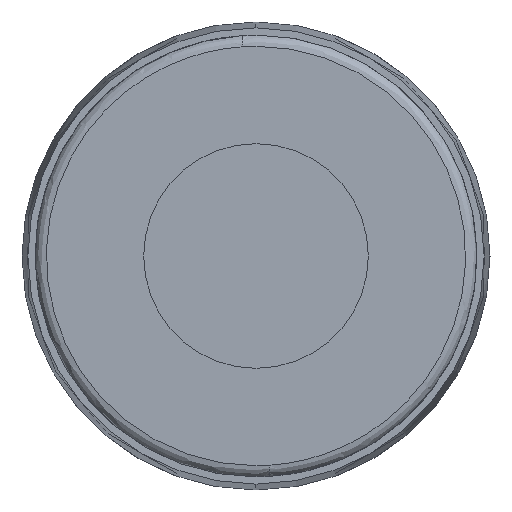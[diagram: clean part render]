
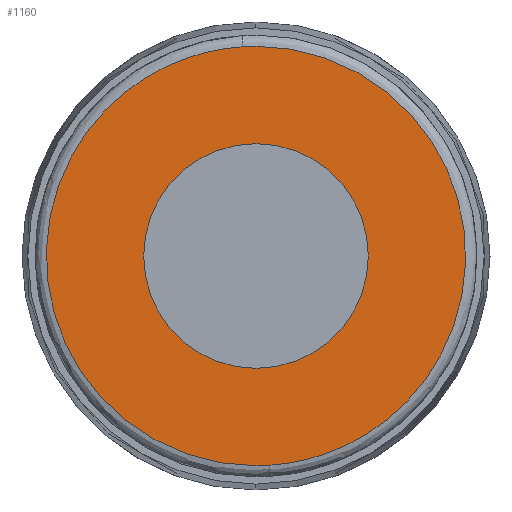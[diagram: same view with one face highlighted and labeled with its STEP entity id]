
A CAD part, left-side view. The second image highlights one B-rep face of the part: STEP entity #1160.
In plain terms, the highlighted planar face has unit normal (-1, 0, 0).
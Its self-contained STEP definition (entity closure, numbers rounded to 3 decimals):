
#62 = CARTESIAN_POINT ( 'NONE',  ( -17.45, 6.129, 6.1 ) ) ;
#183 = CARTESIAN_POINT ( 'NONE',  ( -17.45, -10.869, -4.938 ) ) ;
#189 = CARTESIAN_POINT ( 'NONE',  ( -17.45, 0., 5.6 ) ) ;
#291 =( BOUNDED_CURVE ( )  B_SPLINE_CURVE ( 3, ( #990, #1176, #327, #2205 ),
 .UNSPECIFIED., .F., .T. ) 
 B_SPLINE_CURVE_WITH_KNOTS ( ( 4, 4 ),
 ( 0.98, 1. ),
 .UNSPECIFIED. ) 
 CURVE ( )  GEOMETRIC_REPRESENTATION_ITEM ( )  RATIONAL_B_SPLINE_CURVE ( ( 1., 1., 1., 1. ) ) 
 REPRESENTATION_ITEM ( '' )  );
#307 = CARTESIAN_POINT ( 'NONE',  ( -17.45, -10.543, 5.6 ) ) ;
#327 = CARTESIAN_POINT ( 'NONE',  ( -17.45, -0.115, -5.6 ) ) ;
#405 = CARTESIAN_POINT ( 'NONE',  ( -17.45, 0.115, 5.6 ) ) ;
#409 = DIRECTION ( 'NONE',  ( -1., 0., 0. ) ) ;
#466 = ORIENTED_EDGE ( 'NONE', *, *, #527, .T. ) ;
#513 = AXIS2_PLACEMENT_3D ( 'NONE', #62, #409, #1949 ) ;
#527 = EDGE_CURVE ( 'NONE', #1685, #743, #570, .T. ) ;
#570 = CIRCLE ( 'NONE', #1811, 3. ) ;
#572 = CARTESIAN_POINT ( 'NONE',  ( -17.45, 10.543, -5.6 ) ) ;
#619 = CARTESIAN_POINT ( 'NONE',  ( -17.45, 10.869, 4.938 ) ) ;
#639 = CARTESIAN_POINT ( 'NONE',  ( -17.45, -0.346, -5.589 ) ) ;
#667 = VERTEX_POINT ( 'NONE', #639 ) ;
#736 = CARTESIAN_POINT ( 'NONE',  ( -17.45, 0., -3. ) ) ;
#743 = VERTEX_POINT ( 'NONE', #736 ) ;
#753 = CARTESIAN_POINT ( 'NONE',  ( -17.45, 0., 5.6 ) ) ;
#766 = PLANE ( 'NONE',  #513 ) ;
#822 = ORIENTED_EDGE ( 'NONE', *, *, #931, .F. ) ;
#836 = CARTESIAN_POINT ( 'NONE',  ( -17.45, 0., -5.6 ) ) ;
#885 = EDGE_CURVE ( 'NONE', #743, #1685, #1618, .T. ) ;
#922 =( BOUNDED_CURVE ( )  B_SPLINE_CURVE ( 3, ( #1032, #307, #183, #1718 ),
 .UNSPECIFIED., .F., .T. ) 
 B_SPLINE_CURVE_WITH_KNOTS ( ( 4, 4 ),
 ( 0., 0.98 ),
 .UNSPECIFIED. ) 
 CURVE ( )  GEOMETRIC_REPRESENTATION_ITEM ( )  RATIONAL_B_SPLINE_CURVE ( ( 1., 0.354, 0.354, 1. ) ) 
 REPRESENTATION_ITEM ( '' )  );
#931 = EDGE_CURVE ( 'NONE', #667, #1643, #291, .T. ) ;
#954 = VERTEX_POINT ( 'NONE', #189 ) ;
#990 = CARTESIAN_POINT ( 'NONE',  ( -17.45, -0.346, -5.589 ) ) ;
#1032 = CARTESIAN_POINT ( 'NONE',  ( -17.45, 0., 5.6 ) ) ;
#1070 = CARTESIAN_POINT ( 'NONE',  ( -17.45, 0.231, 5.596 ) ) ;
#1117 = CARTESIAN_POINT ( 'NONE',  ( -17.45, 0., 0. ) ) ;
#1135 = CARTESIAN_POINT ( 'NONE',  ( -17.45, 0.346, 5.589 ) ) ;
#1160 = ADVANCED_FACE ( '15', ( #1612, #1621 ), #766, .T. ) ;
#1176 = CARTESIAN_POINT ( 'NONE',  ( -17.45, -0.231, -5.596 ) ) ;
#1242 = EDGE_LOOP ( 'NONE', ( #1879, #822, #2030, #2086 ) ) ;
#1295 = AXIS2_PLACEMENT_3D ( 'NONE', #1831, #2054, #1666 ) ;
#1305 = DIRECTION ( 'NONE',  ( 1., 0., 0. ) ) ;
#1330 = CARTESIAN_POINT ( 'NONE',  ( -17.45, 0., 3. ) ) ;
#1388 =( BOUNDED_CURVE ( )  B_SPLINE_CURVE ( 3, ( #2097, #572, #619, #1470 ),
 .UNSPECIFIED., .F., .T. ) 
 B_SPLINE_CURVE_WITH_KNOTS ( ( 4, 4 ),
 ( 0., 0.98 ),
 .UNSPECIFIED. ) 
 CURVE ( )  GEOMETRIC_REPRESENTATION_ITEM ( )  RATIONAL_B_SPLINE_CURVE ( ( 1., 0.354, 0.354, 1. ) ) 
 REPRESENTATION_ITEM ( '' )  );
#1419 = CARTESIAN_POINT ( 'NONE',  ( -17.45, 0.346, 5.589 ) ) ;
#1435 =( BOUNDED_CURVE ( )  B_SPLINE_CURVE ( 3, ( #1419, #1070, #405, #753 ),
 .UNSPECIFIED., .F., .T. ) 
 B_SPLINE_CURVE_WITH_KNOTS ( ( 4, 4 ),
 ( 0.98, 1. ),
 .UNSPECIFIED. ) 
 CURVE ( )  GEOMETRIC_REPRESENTATION_ITEM ( )  RATIONAL_B_SPLINE_CURVE ( ( 1., 1., 1., 1. ) ) 
 REPRESENTATION_ITEM ( '' )  );
#1470 = CARTESIAN_POINT ( 'NONE',  ( -17.45, 0.346, 5.589 ) ) ;
#1573 = EDGE_LOOP ( 'NONE', ( #1608, #466 ) ) ;
#1608 = ORIENTED_EDGE ( 'NONE', *, *, #885, .T. ) ;
#1612 = FACE_BOUND ( 'NONE', #1573, .T. ) ;
#1618 = CIRCLE ( 'NONE', #1295, 3. ) ;
#1621 = FACE_OUTER_BOUND ( 'NONE', #1242, .T. ) ;
#1643 = VERTEX_POINT ( 'NONE', #836 ) ;
#1666 = DIRECTION ( 'NONE',  ( 0., 0., -1. ) ) ;
#1677 = EDGE_CURVE ( 'NONE', #954, #667, #922, .T. ) ;
#1685 = VERTEX_POINT ( 'NONE', #1330 ) ;
#1718 = CARTESIAN_POINT ( 'NONE',  ( -17.45, -0.346, -5.589 ) ) ;
#1760 = EDGE_CURVE ( 'NONE', #1643, #2146, #1388, .T. ) ;
#1811 = AXIS2_PLACEMENT_3D ( 'NONE', #1117, #1305, #1815 ) ;
#1815 = DIRECTION ( 'NONE',  ( 0., 0., -1. ) ) ;
#1831 = CARTESIAN_POINT ( 'NONE',  ( -17.45, 0., 0. ) ) ;
#1879 = ORIENTED_EDGE ( 'NONE', *, *, #1760, .F. ) ;
#1949 = DIRECTION ( 'NONE',  ( 0., 0., 1. ) ) ;
#1964 = EDGE_CURVE ( 'NONE', #2146, #954, #1435, .T. ) ;
#2030 = ORIENTED_EDGE ( 'NONE', *, *, #1677, .F. ) ;
#2054 = DIRECTION ( 'NONE',  ( 1., 0., 0. ) ) ;
#2086 = ORIENTED_EDGE ( 'NONE', *, *, #1964, .F. ) ;
#2097 = CARTESIAN_POINT ( 'NONE',  ( -17.45, 0., -5.6 ) ) ;
#2146 = VERTEX_POINT ( 'NONE', #1135 ) ;
#2205 = CARTESIAN_POINT ( 'NONE',  ( -17.45, 0., -5.6 ) ) ;
